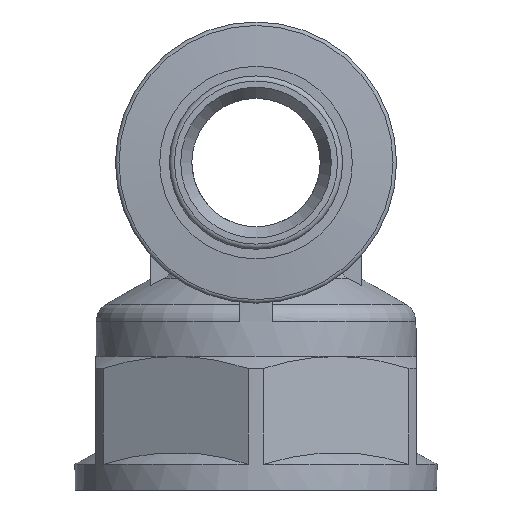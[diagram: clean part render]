
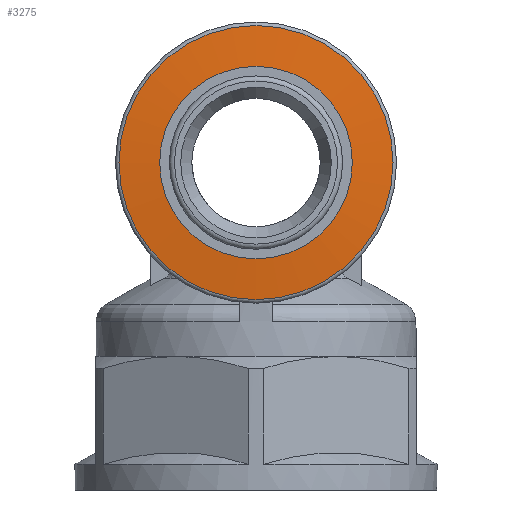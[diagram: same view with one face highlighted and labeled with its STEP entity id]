
A CAD part, front view. The second image highlights one B-rep face of the part: STEP entity #3275.
In plain terms, the highlighted conical face has half-angle 85 degrees and reference radius 8.995 mm.
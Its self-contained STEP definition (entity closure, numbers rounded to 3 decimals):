
#3275=ADVANCED_FACE('',(#6811,#6813),#6815,.T.);
#6811=FACE_OUTER_BOUND('',#6812,.T.);
#6812=EDGE_LOOP('',(#9446));
#6813=FACE_OUTER_BOUND('',#6814,.T.);
#6814=EDGE_LOOP('',(#9447));
#6815=CONICAL_SURFACE('',#6816,8.994,1.484);
#6816=AXIS2_PLACEMENT_3D('',#6817,#6818,#6819);
#6817=CARTESIAN_POINT('',(0.,-23.071,0.));
#6818=DIRECTION('',(0.,1.,0.));
#6819=DIRECTION('',(-1.,0.,0.));
#9446=ORIENTED_EDGE('',*,*,#10469,.T.);
#9447=ORIENTED_EDGE('',*,*,#10464,.T.);
#10464=EDGE_CURVE('',#12072,#12072,#12073,.F.);
#10469=EDGE_CURVE('',#12082,#12082,#12083,.T.);
#12072=VERTEX_POINT('',#17573);
#12073=CIRCLE('',#17574,10.676);
#12082=VERTEX_POINT('',#17598);
#12083=CIRCLE('',#17599,7.313);
#17573=CARTESIAN_POINT('',(-10.676,-22.924,0.));
#17574=AXIS2_PLACEMENT_3D('',#17575,#17576,#17577);
#17575=CARTESIAN_POINT('',(0.,-22.924,0.));
#17576=DIRECTION('',(0.,1.,0.));
#17577=DIRECTION('',(-1.,0.,0.));
#17598=CARTESIAN_POINT('',(-7.313,-23.218,0.));
#17599=AXIS2_PLACEMENT_3D('',#17600,#17601,#17602);
#17600=CARTESIAN_POINT('',(0.,-23.218,0.));
#17601=DIRECTION('',(0.,1.,0.));
#17602=DIRECTION('',(-1.,0.,0.));
